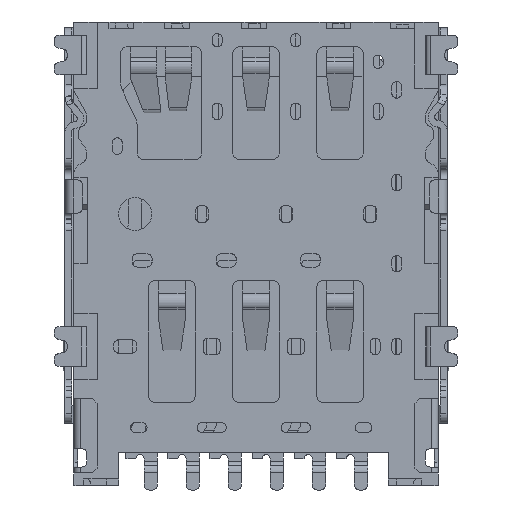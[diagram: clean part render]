
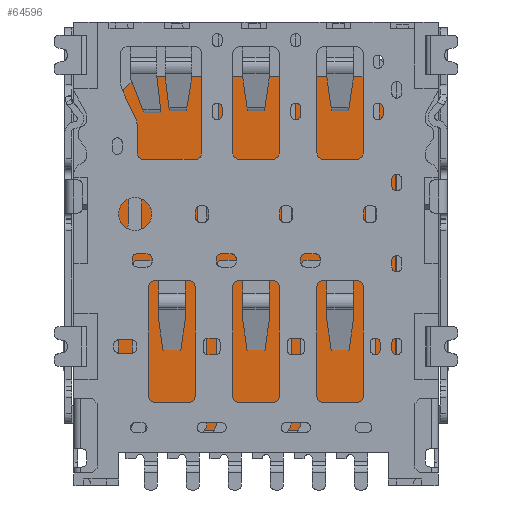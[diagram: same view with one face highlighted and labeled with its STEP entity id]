
A CAD part, front view. The second image highlights one B-rep face of the part: STEP entity #64596.
In plain terms, the highlighted planar face has unit normal (0, -1, 0) as drawn and (0, 0, 1) by its records, which use the part's own axes.
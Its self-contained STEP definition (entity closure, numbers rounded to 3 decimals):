
#64147=DIRECTION('',(0.,1.,0.));
#64148=VECTOR('',#64147,8.7);
#64149=CARTESIAN_POINT('',(4.2,-4.95,0.05));
#64150=LINE('',#64149,#64148);
#64168=CARTESIAN_POINT('',(3.2,3.75,0.05));
#64169=DIRECTION('',(0.,0.,1.));
#64170=DIRECTION('',(1.,0.,0.));
#64171=AXIS2_PLACEMENT_3D('',#64168,#64169,#64170);
#64176=CARTESIAN_POINT('',(3.2,-4.95,0.05));
#64177=DIRECTION('',(0.,0.,1.));
#64178=DIRECTION('',(0.,-1.,0.));
#64179=AXIS2_PLACEMENT_3D('',#64176,#64177,#64178);
#64184=DIRECTION('',(1.,0.,0.));
#64185=VECTOR('',#64184,6.4);
#64186=CARTESIAN_POINT('',(-3.2,-5.95,0.05));
#64187=LINE('',#64186,#64185);
#64191=CARTESIAN_POINT('',(-3.2,-4.95,0.05));
#64192=DIRECTION('',(0.,0.,1.));
#64193=DIRECTION('',(-1.,0.,0.));
#64194=AXIS2_PLACEMENT_3D('',#64191,#64192,#64193);
#64199=CARTESIAN_POINT('',(-3.2,3.75,0.05));
#64200=DIRECTION('',(0.,0.,1.));
#64201=DIRECTION('',(0.,1.,0.));
#64202=AXIS2_PLACEMENT_3D('',#64199,#64200,#64201);
#64207=DIRECTION('',(-1.,0.,0.));
#64208=VECTOR('',#64207,6.4);
#64209=CARTESIAN_POINT('',(3.2,4.75,0.05));
#64210=LINE('',#64209,#64208);
#64235=DIRECTION('',(0.,-1.,0.));
#64236=VECTOR('',#64235,8.7);
#64237=CARTESIAN_POINT('',(-4.2,3.75,0.05));
#64238=LINE('',#64237,#64236);
#64310=CARTESIAN_POINT('',(4.2,3.75,0.05));
#64311=CARTESIAN_POINT('',(3.2,4.75,0.05));
#64312=VERTEX_POINT('',#64310);
#64313=VERTEX_POINT('',#64311);
#64314=CARTESIAN_POINT('',(-3.2,4.75,0.05));
#64315=VERTEX_POINT('',#64314);
#64316=CARTESIAN_POINT('',(-4.2,3.75,0.05));
#64317=VERTEX_POINT('',#64316);
#64318=CARTESIAN_POINT('',(-4.2,-4.95,0.05));
#64319=CARTESIAN_POINT('',(-3.2,-5.95,0.05));
#64320=VERTEX_POINT('',#64318);
#64321=VERTEX_POINT('',#64319);
#64322=CARTESIAN_POINT('',(3.2,-5.95,0.05));
#64323=VERTEX_POINT('',#64322);
#64324=CARTESIAN_POINT('',(4.2,-4.95,0.05));
#64325=VERTEX_POINT('',#64324);
#64575=CARTESIAN_POINT('',(0.,0.,0.05));
#64576=DIRECTION('',(0.,0.,1.));
#64577=DIRECTION('',(1.,0.,0.));
#64578=AXIS2_PLACEMENT_3D('',#64575,#64576,#64577);
#64579=PLANE('',#64578);
#64580=ORIENTED_EDGE('',*,*,#64554,.F.);
#64581=ORIENTED_EDGE('',*,*,#64566,.F.);
#64583=ORIENTED_EDGE('',*,*,#64582,.F.);
#64585=ORIENTED_EDGE('',*,*,#64584,.F.);
#64587=ORIENTED_EDGE('',*,*,#64586,.F.);
#64589=ORIENTED_EDGE('',*,*,#64588,.F.);
#64591=ORIENTED_EDGE('',*,*,#64590,.F.);
#64593=ORIENTED_EDGE('',*,*,#64592,.F.);
#64594=EDGE_LOOP('',(#64580,#64581,#64583,#64585,#64587,#64589,#64591,#64593));
#64595=FACE_OUTER_BOUND('',#64594,.F.);
#64172=CIRCLE('',#64171,1.);
#64180=CIRCLE('',#64179,1.);
#64195=CIRCLE('',#64194,1.);
#64203=CIRCLE('',#64202,1.);
#64554=EDGE_CURVE('',#64312,#64313,#64172,.T.);
#64566=EDGE_CURVE('',#64325,#64312,#64150,.T.);
#64582=EDGE_CURVE('',#64323,#64325,#64180,.T.);
#64584=EDGE_CURVE('',#64321,#64323,#64187,.T.);
#64586=EDGE_CURVE('',#64320,#64321,#64195,.T.);
#64588=EDGE_CURVE('',#64317,#64320,#64238,.T.);
#64590=EDGE_CURVE('',#64315,#64317,#64203,.T.);
#64592=EDGE_CURVE('',#64313,#64315,#64210,.T.);
#64596=ADVANCED_FACE('',(#64595),#64579,.T.);
